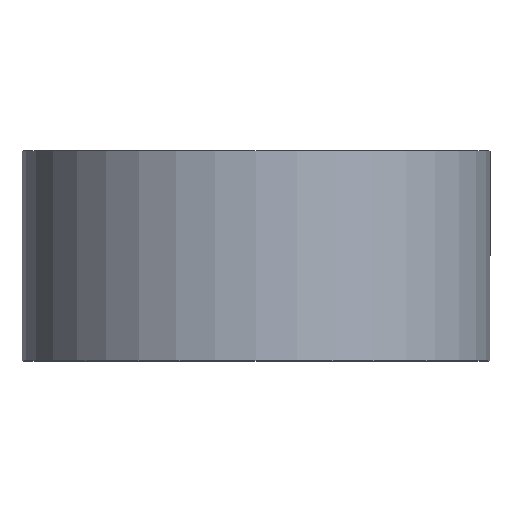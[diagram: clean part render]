
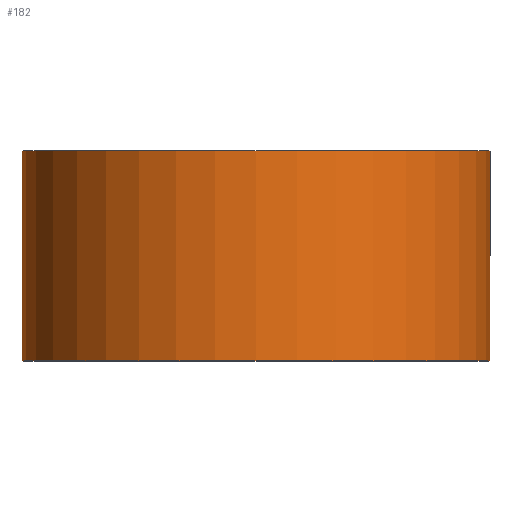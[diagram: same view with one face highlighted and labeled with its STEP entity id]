
A CAD part, top view. The second image highlights one B-rep face of the part: STEP entity #182.
In plain terms, the highlighted cylindrical face has radius 39 mm (diameter 78 mm), a partial arc.
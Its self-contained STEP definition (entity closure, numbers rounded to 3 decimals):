
#2 = LINE ( 'NONE', #20, #174 ) ;
#15 = CARTESIAN_POINT ( 'NONE',  ( 39., 0., 0. ) ) ;
#20 = CARTESIAN_POINT ( 'NONE',  ( -39., 0., 0. ) ) ;
#23 = CARTESIAN_POINT ( 'NONE',  ( 0., 0., 0. ) ) ;
#31 = VERTEX_POINT ( 'NONE', #267 ) ;
#32 = EDGE_LOOP ( 'NONE', ( #86, #288, #189, #144 ) ) ;
#33 = DIRECTION ( 'NONE',  ( 0., 1., 0. ) ) ;
#43 = DIRECTION ( 'NONE',  ( 0., 1., 0. ) ) ;
#56 = DIRECTION ( 'NONE',  ( -1., 0., 0. ) ) ;
#58 = EDGE_CURVE ( 'NONE', #163, #282, #228, .T. ) ;
#66 = AXIS2_PLACEMENT_3D ( 'NONE', #23, #130, #186 ) ;
#84 = CARTESIAN_POINT ( 'NONE',  ( 0., 35., 0. ) ) ;
#86 = ORIENTED_EDGE ( 'NONE', *, *, #263, .T. ) ;
#98 = VERTEX_POINT ( 'NONE', #129 ) ;
#122 = AXIS2_PLACEMENT_3D ( 'NONE', #258, #33, #56 ) ;
#123 = CIRCLE ( 'NONE', #122, 39. ) ;
#126 = CARTESIAN_POINT ( 'NONE',  ( 39., 35., 0. ) ) ;
#129 = CARTESIAN_POINT ( 'NONE',  ( 39., 0., 0. ) ) ;
#130 = DIRECTION ( 'NONE',  ( 0., 1., 0. ) ) ;
#132 = CYLINDRICAL_SURFACE ( 'NONE', #66, 39. ) ;
#138 = LINE ( 'NONE', #15, #256 ) ;
#144 = ORIENTED_EDGE ( 'NONE', *, *, #217, .F. ) ;
#146 = FACE_OUTER_BOUND ( 'NONE', #32, .T. ) ;
#163 = VERTEX_POINT ( 'NONE', #205 ) ;
#174 = VECTOR ( 'NONE', #43, 1000. ) ;
#178 = EDGE_CURVE ( 'NONE', #98, #282, #138, .T. ) ;
#180 = DIRECTION ( 'NONE',  ( 0., 1., 0. ) ) ;
#182 = ADVANCED_FACE ( 'NONE', ( #146 ), #132, .T. ) ;
#186 = DIRECTION ( 'NONE',  ( -1., 0., 0. ) ) ;
#189 = ORIENTED_EDGE ( 'NONE', *, *, #58, .F. ) ;
#205 = CARTESIAN_POINT ( 'NONE',  ( -39., 35., 0. ) ) ;
#214 = AXIS2_PLACEMENT_3D ( 'NONE', #84, #244, #245 ) ;
#217 = EDGE_CURVE ( 'NONE', #31, #163, #2, .T. ) ;
#228 = CIRCLE ( 'NONE', #214, 39. ) ;
#244 = DIRECTION ( 'NONE',  ( 0., 1., 0. ) ) ;
#245 = DIRECTION ( 'NONE',  ( -1., 0., 0. ) ) ;
#256 = VECTOR ( 'NONE', #180, 1000. ) ;
#258 = CARTESIAN_POINT ( 'NONE',  ( 0., 0., 0. ) ) ;
#263 = EDGE_CURVE ( 'NONE', #31, #98, #123, .T. ) ;
#267 = CARTESIAN_POINT ( 'NONE',  ( -39., 0., 0. ) ) ;
#282 = VERTEX_POINT ( 'NONE', #126 ) ;
#288 = ORIENTED_EDGE ( 'NONE', *, *, #178, .T. ) ;
